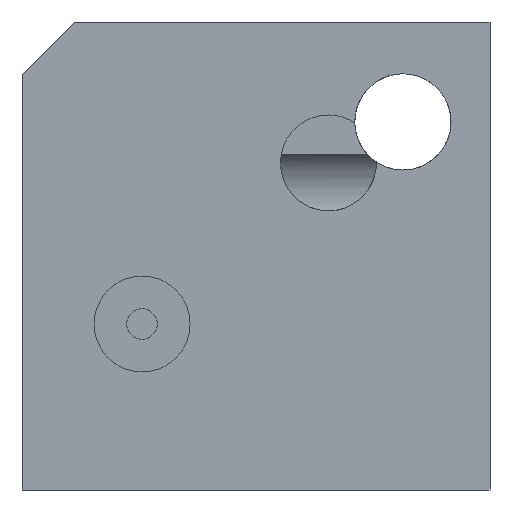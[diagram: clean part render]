
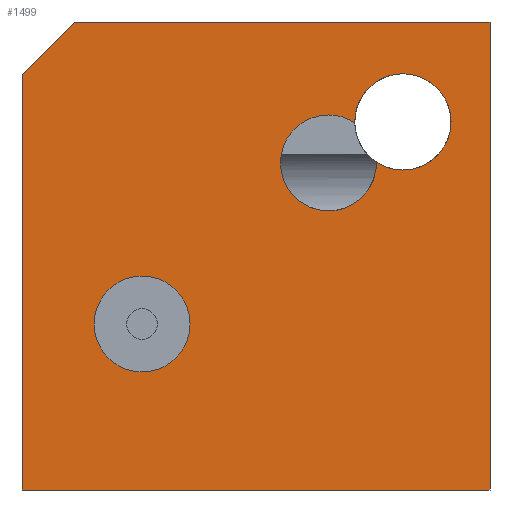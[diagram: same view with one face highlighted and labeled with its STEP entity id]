
A CAD part, left-side view. The second image highlights one B-rep face of the part: STEP entity #1499.
In plain terms, the highlighted planar face has unit normal (-1, 0, 0).
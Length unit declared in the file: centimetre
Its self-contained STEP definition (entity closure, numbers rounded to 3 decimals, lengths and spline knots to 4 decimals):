
#15 = EDGE_CURVE ( 'NONE', #1035, #855, #1371, .T. ) ;
#71 = DIRECTION ( 'NONE',  ( -1., 0., 0. ) ) ;
#81 = VERTEX_POINT ( 'NONE', #365 ) ;
#90 = CIRCLE ( 'NONE', #715, 102.8383 ) ;
#96 = EDGE_CURVE ( 'NONE', #855, #1401, #191, .T. ) ;
#97 = ORIENTED_EDGE ( 'NONE', *, *, #15, .T. ) ;
#108 = EDGE_LOOP ( 'NONE', ( #2018, #314, #97, #2247, #473 ) ) ;
#147 = EDGE_CURVE ( 'NONE', #1767, #81, #1527, .T. ) ;
#165 = DIRECTION ( 'NONE',  ( 0., 0., -1. ) ) ;
#175 = CIRCLE ( 'NONE', #183, 102.5322 ) ;
#183 = AXIS2_PLACEMENT_3D ( 'NONE', #367, #541, #1388 ) ;
#189 = FACE_BOUND ( 'NONE', #1443, .T. ) ;
#191 = LINE ( 'NONE', #1566, #1441 ) ;
#232 = DIRECTION ( 'NONE',  ( 0., 0., -1. ) ) ;
#272 = AXIS2_PLACEMENT_3D ( 'NONE', #1953, #1610, #351 ) ;
#284 = ORIENTED_EDGE ( 'NONE', *, *, #961, .F. ) ;
#285 = DIRECTION ( 'NONE',  ( -1., 0., 0. ) ) ;
#295 = CARTESIAN_POINT ( 'NONE',  ( 0., 743.3628, 354.7041 ) ) ;
#314 = ORIENTED_EDGE ( 'NONE', *, *, #325, .T. ) ;
#325 = EDGE_CURVE ( 'NONE', #1767, #1035, #1430, .T. ) ;
#351 = DIRECTION ( 'NONE',  ( 0., 0., -1. ) ) ;
#365 = CARTESIAN_POINT ( 'NONE',  ( 0., 0., 1000. ) ) ;
#367 = CARTESIAN_POINT ( 'NONE',  ( 0., 345.203, 698.8754 ) ) ;
#385 = CARTESIAN_POINT ( 'NONE',  ( 0., 743.3628, 354.7041 ) ) ;
#387 = PLANE ( 'NONE',  #272 ) ;
#391 = VERTEX_POINT ( 'NONE', #441 ) ;
#411 = AXIS2_PLACEMENT_3D ( 'NONE', #1985, #71, #1950 ) ;
#415 = AXIS2_PLACEMENT_3D ( 'NONE', #1042, #2259, #1740 ) ;
#427 = CARTESIAN_POINT ( 'NONE',  ( 0., 345.203, 698.8754 ) ) ;
#441 = CARTESIAN_POINT ( 'NONE',  ( 0., 345.203, 801.4076 ) ) ;
#442 = EDGE_LOOP ( 'NONE', ( #739, #284 ) ) ;
#452 = CIRCLE ( 'NONE', #745, 102.4779 ) ;
#473 = ORIENTED_EDGE ( 'NONE', *, *, #1111, .F. ) ;
#538 = ORIENTED_EDGE ( 'NONE', *, *, #2091, .F. ) ;
#541 = DIRECTION ( 'NONE',  ( -1., 0., 0. ) ) ;
#556 = FACE_BOUND ( 'NONE', #442, .T. ) ;
#590 = CARTESIAN_POINT ( 'NONE',  ( 0., 1000., 887.1551 ) ) ;
#605 = AXIS2_PLACEMENT_3D ( 'NONE', #295, #285, #988 ) ;
#657 = EDGE_CURVE ( 'NONE', #820, #2082, #1394, .T. ) ;
#668 = CARTESIAN_POINT ( 'NONE',  ( 0., 1000., 1000. ) ) ;
#674 = ORIENTED_EDGE ( 'NONE', *, *, #1774, .T. ) ;
#715 = AXIS2_PLACEMENT_3D ( 'NONE', #1297, #1137, #1104 ) ;
#739 = ORIENTED_EDGE ( 'NONE', *, *, #1449, .F. ) ;
#745 = AXIS2_PLACEMENT_3D ( 'NONE', #385, #1238, #1073 ) ;
#785 = AXIS2_PLACEMENT_3D ( 'NONE', #427, #1114, #2000 ) ;
#820 = VERTEX_POINT ( 'NONE', #1390 ) ;
#849 = VECTOR ( 'NONE', #2053, 100. ) ;
#855 = VERTEX_POINT ( 'NONE', #2160 ) ;
#862 = CIRCLE ( 'NONE', #605, 102.4779 ) ;
#880 = CARTESIAN_POINT ( 'NONE',  ( 0., 288.9603, 784.6053 ) ) ;
#918 = ORIENTED_EDGE ( 'NONE', *, *, #1185, .T. ) ;
#923 = CARTESIAN_POINT ( 'NONE',  ( 0., 887.1551, 1000. ) ) ;
#961 = EDGE_CURVE ( 'NONE', #1348, #1168, #452, .T. ) ;
#988 = DIRECTION ( 'NONE',  ( 0., 0., 1. ) ) ;
#1022 = VERTEX_POINT ( 'NONE', #880 ) ;
#1035 = VERTEX_POINT ( 'NONE', #590 ) ;
#1042 = CARTESIAN_POINT ( 'NONE',  ( 0., 186.1398, 786.5168 ) ) ;
#1060 = EDGE_CURVE ( 'NONE', #1022, #1117, #1215, .T. ) ;
#1073 = DIRECTION ( 'NONE',  ( 0., 0., 1. ) ) ;
#1104 = DIRECTION ( 'NONE',  ( 0., 0., -1. ) ) ;
#1111 = EDGE_CURVE ( 'NONE', #81, #1401, #2246, .T. ) ;
#1114 = DIRECTION ( 'NONE',  ( -1., 0., 0. ) ) ;
#1117 = VERTEX_POINT ( 'NONE', #1753 ) ;
#1133 = VERTEX_POINT ( 'NONE', #1448 ) ;
#1137 = DIRECTION ( 'NONE',  ( 1., 0., 0. ) ) ;
#1168 = VERTEX_POINT ( 'NONE', #1582 ) ;
#1173 = AXIS2_PLACEMENT_3D ( 'NONE', #2093, #1567, #165 ) ;
#1174 = ORIENTED_EDGE ( 'NONE', *, *, #1060, .T. ) ;
#1185 = EDGE_CURVE ( 'NONE', #1117, #1133, #1253, .T. ) ;
#1215 = CIRCLE ( 'NONE', #1173, 102.8383 ) ;
#1238 = DIRECTION ( 'NONE',  ( -1., 0., 0. ) ) ;
#1253 = CIRCLE ( 'NONE', #415, 102.8383 ) ;
#1297 = CARTESIAN_POINT ( 'NONE',  ( 0., 186.1398, 786.5168 ) ) ;
#1322 = CIRCLE ( 'NONE', #785, 102.5322 ) ;
#1348 = VERTEX_POINT ( 'NONE', #2035 ) ;
#1371 = LINE ( 'NONE', #1897, #1837 ) ;
#1388 = DIRECTION ( 'NONE',  ( 0., 0., 1. ) ) ;
#1390 = CARTESIAN_POINT ( 'NONE',  ( 0., 345.203, 596.3432 ) ) ;
#1394 = CIRCLE ( 'NONE', #411, 102.5322 ) ;
#1401 = VERTEX_POINT ( 'NONE', #1476 ) ;
#1430 = LINE ( 'NONE', #923, #2043 ) ;
#1441 = VECTOR ( 'NONE', #2078, 100. ) ;
#1443 = EDGE_LOOP ( 'NONE', ( #1174, #918, #674, #1821, #1707, #538 ) ) ;
#1448 = CARTESIAN_POINT ( 'NONE',  ( 0., 186.1398, 683.6785 ) ) ;
#1449 = EDGE_CURVE ( 'NONE', #1168, #1348, #862, .T. ) ;
#1476 = CARTESIAN_POINT ( 'NONE',  ( 0., 0., 0. ) ) ;
#1499 = ADVANCED_FACE ( 'NONE', ( #556, #189, #1922 ), #387, .F. ) ;
#1527 = LINE ( 'NONE', #668, #849 ) ;
#1566 = CARTESIAN_POINT ( 'NONE',  ( 0., 1000., 0. ) ) ;
#1567 = DIRECTION ( 'NONE',  ( 1., 0., 0. ) ) ;
#1582 = CARTESIAN_POINT ( 'NONE',  ( 0., 743.3628, 457.1821 ) ) ;
#1610 = DIRECTION ( 'NONE',  ( 1., 0., 0. ) ) ;
#1668 = EDGE_CURVE ( 'NONE', #391, #820, #1322, .T. ) ;
#1707 = ORIENTED_EDGE ( 'NONE', *, *, #1668, .F. ) ;
#1740 = DIRECTION ( 'NONE',  ( 0., 0., -1. ) ) ;
#1753 = CARTESIAN_POINT ( 'NONE',  ( 0., 186.1398, 889.3551 ) ) ;
#1767 = VERTEX_POINT ( 'NONE', #1813 ) ;
#1774 = EDGE_CURVE ( 'NONE', #1133, #2082, #90, .T. ) ;
#1792 = CARTESIAN_POINT ( 'NONE',  ( 0., 0., 1000. ) ) ;
#1813 = CARTESIAN_POINT ( 'NONE',  ( 0., 887.1551, 1000. ) ) ;
#1821 = ORIENTED_EDGE ( 'NONE', *, *, #657, .F. ) ;
#1837 = VECTOR ( 'NONE', #2066, 100. ) ;
#1897 = CARTESIAN_POINT ( 'NONE',  ( 0., 1000., 1000. ) ) ;
#1922 = FACE_OUTER_BOUND ( 'NONE', #108, .T. ) ;
#1950 = DIRECTION ( 'NONE',  ( 0., 0., 1. ) ) ;
#1953 = CARTESIAN_POINT ( 'NONE',  ( 0., 1000., 1000. ) ) ;
#1985 = CARTESIAN_POINT ( 'NONE',  ( 0., 345.203, 698.8754 ) ) ;
#2000 = DIRECTION ( 'NONE',  ( 0., 0., 1. ) ) ;
#2018 = ORIENTED_EDGE ( 'NONE', *, *, #147, .F. ) ;
#2035 = CARTESIAN_POINT ( 'NONE',  ( 0., 743.3628, 252.2262 ) ) ;
#2043 = VECTOR ( 'NONE', #2131, 100. ) ;
#2046 = VECTOR ( 'NONE', #232, 100. ) ;
#2053 = DIRECTION ( 'NONE',  ( 0., -1., 0. ) ) ;
#2066 = DIRECTION ( 'NONE',  ( 0., 0., -1. ) ) ;
#2078 = DIRECTION ( 'NONE',  ( 0., -1., 0. ) ) ;
#2081 = CARTESIAN_POINT ( 'NONE',  ( 0., 242.6856, 700.6198 ) ) ;
#2082 = VERTEX_POINT ( 'NONE', #2081 ) ;
#2091 = EDGE_CURVE ( 'NONE', #1022, #391, #175, .T. ) ;
#2093 = CARTESIAN_POINT ( 'NONE',  ( 0., 186.1398, 786.5168 ) ) ;
#2131 = DIRECTION ( 'NONE',  ( 0., 0.707, -0.707 ) ) ;
#2160 = CARTESIAN_POINT ( 'NONE',  ( 0., 1000., 0. ) ) ;
#2246 = LINE ( 'NONE', #1792, #2046 ) ;
#2247 = ORIENTED_EDGE ( 'NONE', *, *, #96, .T. ) ;
#2259 = DIRECTION ( 'NONE',  ( 1., 0., 0. ) ) ;
